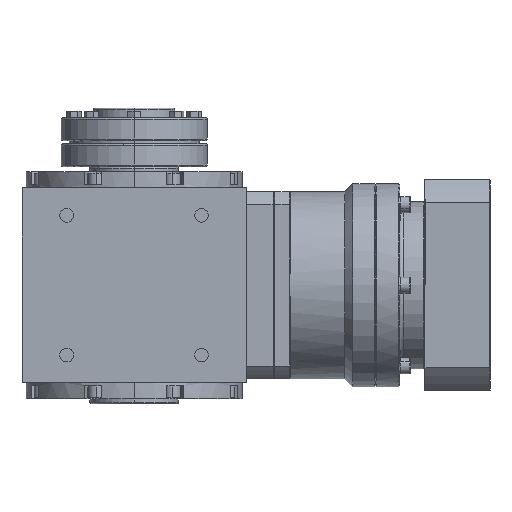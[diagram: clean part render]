
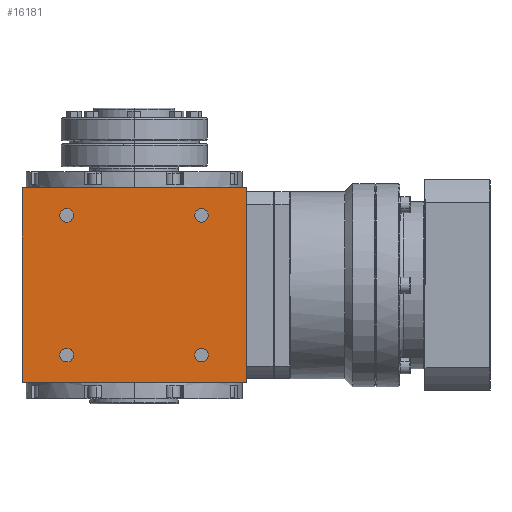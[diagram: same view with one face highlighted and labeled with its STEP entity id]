
A CAD part, left-side view. The second image highlights one B-rep face of the part: STEP entity #16181.
In plain terms, the highlighted planar face has unit normal (-1, 0, 0).
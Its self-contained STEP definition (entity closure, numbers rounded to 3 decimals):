
#1434 = AXIS2_PLACEMENT_3D ( 'NONE', #39413, #34050, #5304 ) ;
#1613 = FACE_BOUND ( 'NONE', #24309, .T. ) ;
#1987 = CIRCLE ( 'NONE', #8107, 4.2 ) ;
#2004 = CARTESIAN_POINT ( 'NONE',  ( -69., -41.5, -43. ) ) ;
#2073 = DIRECTION ( 'NONE',  ( 0., -1., 0. ) ) ;
#2109 = DIRECTION ( 'NONE',  ( 1., 0., 0. ) ) ;
#2540 = EDGE_LOOP ( 'NONE', ( #39529, #24890 ) ) ;
#3811 = DIRECTION ( 'NONE',  ( 0., -1., 0. ) ) ;
#4376 = FACE_BOUND ( 'NONE', #2540, .T. ) ;
#5207 = AXIS2_PLACEMENT_3D ( 'NONE', #34017, #34643, #2073 ) ;
#5304 = DIRECTION ( 'NONE',  ( 0., -1., 0. ) ) ;
#5542 = ORIENTED_EDGE ( 'NONE', *, *, #28790, .T. ) ;
#6320 = CARTESIAN_POINT ( 'NONE',  ( -69., -69., -60. ) ) ;
#6999 = VERTEX_POINT ( 'NONE', #18524 ) ;
#7202 = CARTESIAN_POINT ( 'NONE',  ( -69., -37.3, -43. ) ) ;
#7596 = DIRECTION ( 'NONE',  ( 0., -1., 0. ) ) ;
#7805 = LINE ( 'NONE', #26818, #21164 ) ;
#8107 = AXIS2_PLACEMENT_3D ( 'NONE', #16648, #32729, #26581 ) ;
#8233 = CARTESIAN_POINT ( 'NONE',  ( -69., -69., 60. ) ) ;
#8588 = CIRCLE ( 'NONE', #5207, 4.2 ) ;
#8627 = CARTESIAN_POINT ( 'NONE',  ( -69., 69., -60. ) ) ;
#8771 = EDGE_CURVE ( 'NONE', #15781, #36775, #25751, .T. ) ;
#8786 = CARTESIAN_POINT ( 'NONE',  ( -69., 45.7, 43. ) ) ;
#9079 = DIRECTION ( 'NONE',  ( 0., 0., 1. ) ) ;
#9332 = CIRCLE ( 'NONE', #34316, 4.2 ) ;
#9543 = VERTEX_POINT ( 'NONE', #8786 ) ;
#9754 = EDGE_LOOP ( 'NONE', ( #26758, #11155 ) ) ;
#10091 = CIRCLE ( 'NONE', #31690, 4.2 ) ;
#10240 = VERTEX_POINT ( 'NONE', #34200 ) ;
#10263 = EDGE_CURVE ( 'NONE', #6999, #13776, #11780, .T. ) ;
#10687 = EDGE_CURVE ( 'NONE', #30088, #38509, #13006, .T. ) ;
#10762 = DIRECTION ( 'NONE',  ( 1., 0., 0. ) ) ;
#10970 = EDGE_CURVE ( 'NONE', #17085, #30403, #25154, .T. ) ;
#11155 = ORIENTED_EDGE ( 'NONE', *, *, #41143, .T. ) ;
#11349 = CARTESIAN_POINT ( 'NONE',  ( -69., 69., -60. ) ) ;
#11583 = CIRCLE ( 'NONE', #1434, 4.2 ) ;
#11780 = LINE ( 'NONE', #8627, #32540 ) ;
#12903 = ORIENTED_EDGE ( 'NONE', *, *, #38918, .T. ) ;
#13006 = CIRCLE ( 'NONE', #21785, 4.2 ) ;
#13776 = VERTEX_POINT ( 'NONE', #17411 ) ;
#14328 = DIRECTION ( 'NONE',  ( 0., -1., 0. ) ) ;
#14904 = DIRECTION ( 'NONE',  ( 1., 0., 0. ) ) ;
#15228 = VECTOR ( 'NONE', #9079, 1000. ) ;
#15607 = CARTESIAN_POINT ( 'NONE',  ( -69., 69., 60. ) ) ;
#15781 = VERTEX_POINT ( 'NONE', #8233 ) ;
#16181 = ADVANCED_FACE ( 'NONE', ( #24637, #21060, #33552, #4376, #1613 ), #21483, .T. ) ;
#16648 = CARTESIAN_POINT ( 'NONE',  ( -69., 41.5, 43. ) ) ;
#16789 = VERTEX_POINT ( 'NONE', #40696 ) ;
#17085 = VERTEX_POINT ( 'NONE', #40022 ) ;
#17401 = AXIS2_PLACEMENT_3D ( 'NONE', #18392, #2109, #34475 ) ;
#17411 = CARTESIAN_POINT ( 'NONE',  ( -69., -69., -60. ) ) ;
#18392 = CARTESIAN_POINT ( 'NONE',  ( -69., 41.5, -43. ) ) ;
#18524 = CARTESIAN_POINT ( 'NONE',  ( -69., 69., -60. ) ) ;
#20278 = VERTEX_POINT ( 'NONE', #30270 ) ;
#20478 = ORIENTED_EDGE ( 'NONE', *, *, #10970, .T. ) ;
#20886 = EDGE_CURVE ( 'NONE', #38509, #30088, #8588, .T. ) ;
#21060 = FACE_BOUND ( 'NONE', #34762, .T. ) ;
#21124 = ORIENTED_EDGE ( 'NONE', *, *, #25463, .T. ) ;
#21164 = VECTOR ( 'NONE', #23849, 1000. ) ;
#21281 = DIRECTION ( 'NONE',  ( 0., -1., 0. ) ) ;
#21355 = EDGE_CURVE ( 'NONE', #13776, #15781, #32318, .T. ) ;
#21483 = PLANE ( 'NONE',  #39011 ) ;
#21759 = DIRECTION ( 'NONE',  ( 0., 1., 0. ) ) ;
#21785 = AXIS2_PLACEMENT_3D ( 'NONE', #2004, #14904, #21281 ) ;
#21845 = VECTOR ( 'NONE', #21759, 1000. ) ;
#23050 = DIRECTION ( 'NONE',  ( 1., 0., 0. ) ) ;
#23774 = DIRECTION ( 'NONE',  ( 0., -1., 0. ) ) ;
#23849 = DIRECTION ( 'NONE',  ( 0., 0., -1. ) ) ;
#24140 = CARTESIAN_POINT ( 'NONE',  ( -69., 69., 60. ) ) ;
#24309 = EDGE_LOOP ( 'NONE', ( #24374, #20478 ) ) ;
#24374 = ORIENTED_EDGE ( 'NONE', *, *, #38396, .T. ) ;
#24637 = FACE_OUTER_BOUND ( 'NONE', #25100, .T. ) ;
#24818 = CIRCLE ( 'NONE', #17401, 4.2 ) ;
#24890 = ORIENTED_EDGE ( 'NONE', *, *, #20886, .T. ) ;
#25100 = EDGE_LOOP ( 'NONE', ( #5542, #32982, #37377, #40384 ) ) ;
#25154 = CIRCLE ( 'NONE', #30569, 4.2 ) ;
#25376 = CARTESIAN_POINT ( 'NONE',  ( -69., -41.5, 43. ) ) ;
#25463 = EDGE_CURVE ( 'NONE', #20278, #9543, #11583, .T. ) ;
#25751 = LINE ( 'NONE', #15607, #21845 ) ;
#26514 = CARTESIAN_POINT ( 'NONE',  ( -69., -45.7, 43. ) ) ;
#26581 = DIRECTION ( 'NONE',  ( 0., -1., 0. ) ) ;
#26758 = ORIENTED_EDGE ( 'NONE', *, *, #40852, .T. ) ;
#26818 = CARTESIAN_POINT ( 'NONE',  ( -69., 69., -60. ) ) ;
#27024 = CARTESIAN_POINT ( 'NONE',  ( -69., 41.5, -43. ) ) ;
#28790 = EDGE_CURVE ( 'NONE', #36775, #6999, #7805, .T. ) ;
#30088 = VERTEX_POINT ( 'NONE', #32509 ) ;
#30270 = CARTESIAN_POINT ( 'NONE',  ( -69., 37.3, 43. ) ) ;
#30403 = VERTEX_POINT ( 'NONE', #26514 ) ;
#30569 = AXIS2_PLACEMENT_3D ( 'NONE', #36489, #36904, #23774 ) ;
#30779 = DIRECTION ( 'NONE',  ( -1., 0., 0. ) ) ;
#31690 = AXIS2_PLACEMENT_3D ( 'NONE', #25376, #23050, #3811 ) ;
#32318 = LINE ( 'NONE', #6320, #15228 ) ;
#32509 = CARTESIAN_POINT ( 'NONE',  ( -69., -45.7, -43. ) ) ;
#32540 = VECTOR ( 'NONE', #14328, 1000. ) ;
#32729 = DIRECTION ( 'NONE',  ( 1., 0., 0. ) ) ;
#32982 = ORIENTED_EDGE ( 'NONE', *, *, #10263, .T. ) ;
#33552 = FACE_BOUND ( 'NONE', #9754, .T. ) ;
#34017 = CARTESIAN_POINT ( 'NONE',  ( -69., -41.5, -43. ) ) ;
#34050 = DIRECTION ( 'NONE',  ( 1., 0., 0. ) ) ;
#34200 = CARTESIAN_POINT ( 'NONE',  ( -69., 37.3, -43. ) ) ;
#34316 = AXIS2_PLACEMENT_3D ( 'NONE', #27024, #10762, #7596 ) ;
#34475 = DIRECTION ( 'NONE',  ( 0., -1., 0. ) ) ;
#34643 = DIRECTION ( 'NONE',  ( 1., 0., 0. ) ) ;
#34762 = EDGE_LOOP ( 'NONE', ( #21124, #12903 ) ) ;
#36489 = CARTESIAN_POINT ( 'NONE',  ( -69., -41.5, 43. ) ) ;
#36775 = VERTEX_POINT ( 'NONE', #24140 ) ;
#36904 = DIRECTION ( 'NONE',  ( 1., 0., 0. ) ) ;
#37377 = ORIENTED_EDGE ( 'NONE', *, *, #21355, .T. ) ;
#38396 = EDGE_CURVE ( 'NONE', #30403, #17085, #10091, .T. ) ;
#38509 = VERTEX_POINT ( 'NONE', #7202 ) ;
#38918 = EDGE_CURVE ( 'NONE', #9543, #20278, #1987, .T. ) ;
#39011 = AXIS2_PLACEMENT_3D ( 'NONE', #11349, #30779, #40325 ) ;
#39413 = CARTESIAN_POINT ( 'NONE',  ( -69., 41.5, 43. ) ) ;
#39529 = ORIENTED_EDGE ( 'NONE', *, *, #10687, .T. ) ;
#40022 = CARTESIAN_POINT ( 'NONE',  ( -69., -37.3, 43. ) ) ;
#40325 = DIRECTION ( 'NONE',  ( 0., 0., 1. ) ) ;
#40384 = ORIENTED_EDGE ( 'NONE', *, *, #8771, .T. ) ;
#40696 = CARTESIAN_POINT ( 'NONE',  ( -69., 45.7, -43. ) ) ;
#40852 = EDGE_CURVE ( 'NONE', #10240, #16789, #24818, .T. ) ;
#41143 = EDGE_CURVE ( 'NONE', #16789, #10240, #9332, .T. ) ;
